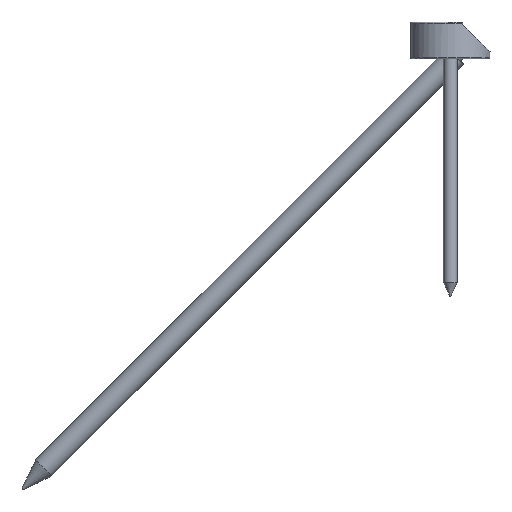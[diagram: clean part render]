
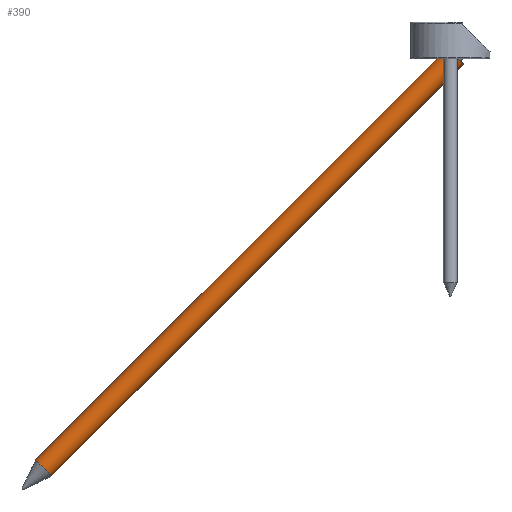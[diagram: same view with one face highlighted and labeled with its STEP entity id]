
A CAD part, left-side view. The second image highlights one B-rep face of the part: STEP entity #390.
In plain terms, the highlighted cylindrical face has radius 5 mm (diameter 10 mm), a full revolution.
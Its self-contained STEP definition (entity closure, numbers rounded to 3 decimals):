
#59=CYLINDRICAL_SURFACE('',#480,5.);
#91=CIRCLE('',#479,5.);
#92=CIRCLE('',#481,5.);
#165=ORIENTED_EDGE('',*,*,#206,.T.);
#166=ORIENTED_EDGE('',*,*,#205,.F.);
#205=EDGE_CURVE('',#238,#238,#91,.T.);
#206=EDGE_CURVE('',#239,#239,#92,.T.);
#238=VERTEX_POINT('',#733);
#239=VERTEX_POINT('',#736);
#297=EDGE_LOOP('',(#165));
#298=EDGE_LOOP('',(#166));
#350=FACE_BOUND('',#297,.T.);
#351=FACE_BOUND('',#298,.T.);
#390=ADVANCED_FACE('',(#350,#351),#59,.T.);
#479=AXIS2_PLACEMENT_3D('',#732,#602,#603);
#480=AXIS2_PLACEMENT_3D('',#734,#604,#605);
#481=AXIS2_PLACEMENT_3D('',#735,#606,#607);
#602=DIRECTION('',(0.,1.,0.));
#603=DIRECTION('',(0.,0.,1.));
#604=DIRECTION('',(0.,1.,0.));
#605=DIRECTION('',(0.,0.,1.));
#606=DIRECTION('',(0.,1.,0.));
#607=DIRECTION('',(0.,0.,1.));
#732=CARTESIAN_POINT('',(0.,42.,0.));
#733=CARTESIAN_POINT('',(0.,42.,5.));
#734=CARTESIAN_POINT('',(0.,54.,0.));
#735=CARTESIAN_POINT('',(0.,-213.,0.));
#736=CARTESIAN_POINT('',(0.,-213.,5.));
